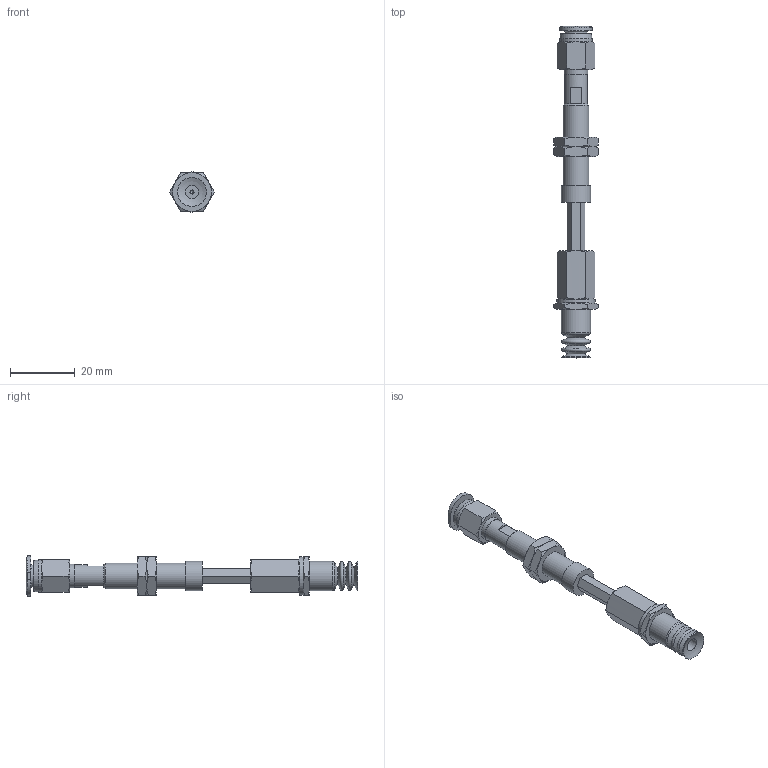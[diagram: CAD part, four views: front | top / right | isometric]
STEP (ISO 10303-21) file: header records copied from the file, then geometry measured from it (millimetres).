
FILE_DESCRIPTION(('STEP AP203'),'1');
FILE_NAME('-O.stp','2025-08-27T01:49:18',(' '),(' '),'Spatial InterOp 3D',' ',' ');
FILE_SCHEMA(('CONFIG_CONTROL_DESIGN'));
Length unit declared in the file: millimetre
Products named in the file (8): BNABPCTH-10-15-※-O; ADAPTER; NAPCTH-10-15-MBODY; Adapter_napc-10-T; Nut napc_h-10-15; NAPCTH-10-15-FBODY; BPCG-10-※; PC-C_06-M5
Assembly tree (8 placements, depth 2):
  BNABPCTH-10-15-※-O
    ADAPTER
    NAPCTH-10-15-MBODY
    Adapter_napc-10-T
    Nut napc_h-10-15  x2
    NAPCTH-10-15-FBODY
    BPCG-10-※
    PC-C_06-M5
Bounding box: 13.86 x 102.68 x 12.4 mm (x, y, z)
Volume: 4936.4 mm3; surface area: 6489.5 mm2
Topology: 7 solids, 10 shells, 203 faces, 419 edges, 248 vertices
Faces by surface type: cone 80, plane 78, cylinder 26, torus 10, bspline 4, revolution 3, sphere 2
Full cylindrical faces by diameter (mm): 1.25 x1, 4 x3, 4.134 x2, 5 x6, 7 x2, 7.188 x2, 7.4 x1, 8 x1, 8.2 x1, 9 x3, 10 x1, 12 x1
Entity records: 5416 total; most frequent: CARTESIAN_POINT 1605, DIRECTION 703, ORIENTED_EDGE 618, EDGE_CURVE 311, AXIS2_PLACEMENT_3D 310, EDGE_LOOP 258, VERTEX_POINT 216, FACE_OUTER_BOUND 155
